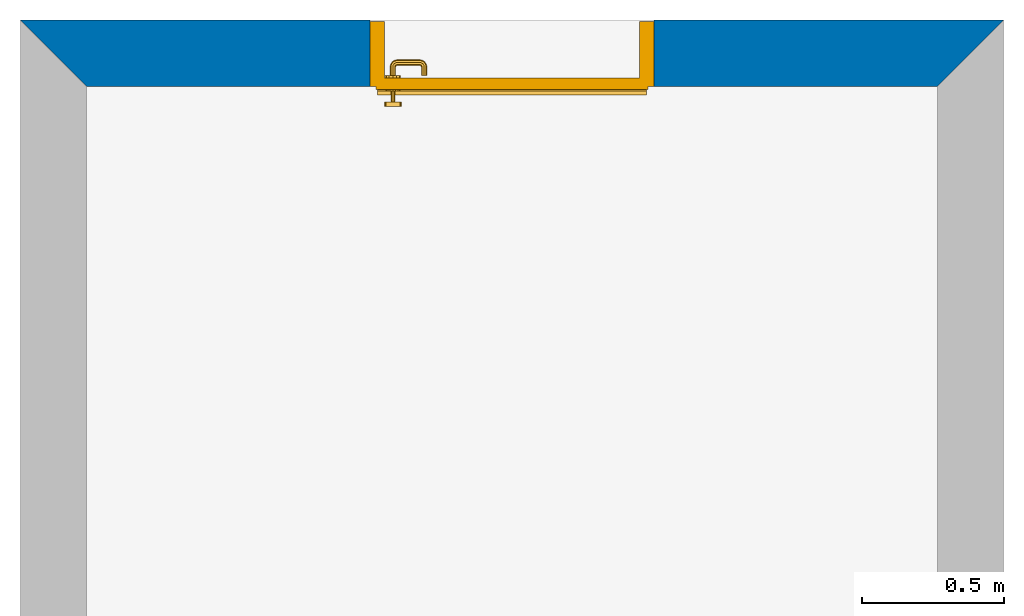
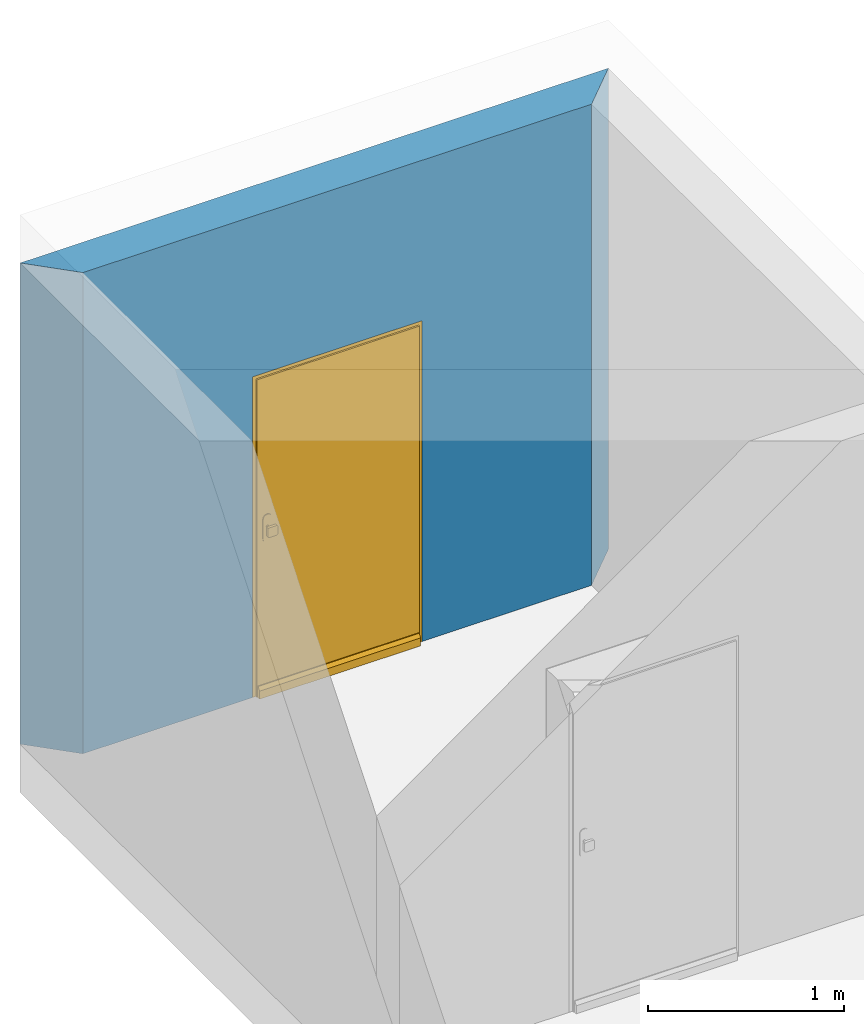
# One storey, part 3 of 4: 1 door, 1 wall, 1 opening.
"""IFC2X3 building model written with IfcOpenShell, lengths in millimetres."""

from ifc_helpers import new_model, entity, si_unit, converted_unit, money_unit, direction, frame, origin_with_axes, origin_2d_with_axis, place, context, subcontext, project, spatial, polyline, rectangle, outline, extrude, open_shell, faceted_brep, surface_model, source, transform, mapped, material, layer, layer_set, layer_usage, type_object, element, fill, save


model = new_model("IFC2X3")

# Units and contexts
model_context = context("Model", 3, precision=1e-05, world=origin_with_axes(), true_north=direction((0.0, 1.0)))
body_context = subcontext(model_context, "Body", "Model", "MODEL_VIEW")
ifc_project = project(units=[si_unit("LENGTHUNIT", "METRE", prefix="MILLI"), si_unit("AREAUNIT", "SQUARE_METRE"), si_unit("VOLUMEUNIT", "CUBIC_METRE"), converted_unit("PLANEANGLEUNIT", "DEGREE", entity("IfcPlaneAngleMeasure", 0.0174532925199), si_unit("PLANEANGLEUNIT", "RADIAN"), dimensions=[0, 0, 0, 0, 0, 0, 0]), si_unit("SOLIDANGLEUNIT", "STERADIAN"), money_unit("CHF"), converted_unit("TIMEUNIT", "Year", entity("IfcTimeMeasure", 31556926.0), si_unit("TIMEUNIT", "SECOND"), dimensions=[0, 0, 0, 0, 0, 0, 0]), si_unit("MASSUNIT", "GRAM"), si_unit("THERMODYNAMICTEMPERATUREUNIT", "DEGREE_CELSIUS"), si_unit("LUMINOUSINTENSITYUNIT", "LUMEN")], contexts=[model_context])

# Site, building, storey
site_placement = place(None, origin_with_axes())
site = spatial("IfcSite", under=ifc_project, at=site_placement, Name="Gel\x8ande", CompositionType="ELEMENT")
building_placement = place(site_placement, origin_with_axes())
building = spatial("IfcBuilding", under=site, at=building_placement, Name="Geb\x8aude", CompositionType="ELEMENT")
storey_placement = place(building_placement, frame((0.0, 0.0, 3100.0), z_axis=(0.0, 0.0, 1.0), x_axis=(1.0, 0.0, 0.0)))
storey = spatial("IfcBuildingStorey", under=building, at=storey_placement, Name="TowZone", CompositionType="ELEMENT", Elevation=3100.0)

# Wall, opening, door
ifc_material_1 = material(Name="Verputz, Innen")
ifc_layer_1 = layer(ifc_material_1, 15.0, ventilated="UNKNOWN")
ifc_material_2 = material(Name="Beton, Stahlbeton")
ifc_layer_2 = layer(ifc_material_2, 200.0, ventilated="UNKNOWN")
ifc_material_3 = material(Name="Verputz, Aussen")
ifc_layer_3 = layer(ifc_material_3, 20.0, ventilated="UNKNOWN")
ifc_layer_set = layer_set([ifc_layer_1, ifc_layer_2, ifc_layer_3], Name="OneZone")
ifc_layer_usage = layer_usage(ifc_layer_set, "AXIS2", "NEGATIVE", 235.0)
wall_type = type_object("IfcWallType", Name="OneZone 235", PredefinedType="NOTDEFINED")
wall_placement = place(storey_placement, frame((5841.86610583, 3470.0, 0.0), z_axis=(0.0, 0.0, 1.0), x_axis=(-1.0, 0.0, 0.0)))
wall = element("IfcWallStandardCase", 1, at=wall_placement, inside=storey, type_object=wall_type, material=ifc_layer_usage, Name="Wand-001", context=body_context, shape_type="SweptSolid", body=[
    extrude(outline(polyline([(-235.0, 0.0), (3235.0, 0.0), (3000.0, 235.0), (0.0, 235.0), (-235.0, 0.0)])), origin_with_axes(), (0.0, 0.0, 1.0), 3000.0),
])
opening_placement = place(wall_placement, frame((1500.0, 0.0, 0.0), z_axis=(0.0, 0.0, 1.0), x_axis=(1.0, 0.0, 0.0)))
opening = element("IfcOpeningElement", 2, at=opening_placement, cuts=wall, Name="T\x9fr-001", context=body_context, shape_type="SweptSolid", body=[
    extrude(rectangle(XDim=1000.0, YDim=2000.0, at=origin_2d_with_axis()), frame((0.0, -235.0, 1000.0), z_axis=(0.0, -1.0, 0.0), x_axis=(-1.0, 0.0, 0.0)), (0.0, 0.0, -1.0), 705.0),
])
door_style = type_object("IfcDoorStyle", Name="Eingangst\x9fr 18", ConstructionType="NOTDEFINED", OperationType="SINGLE_SWING_LEFT", ParameterTakesPrecedence=False, Sizeable=False)
shared_shape = source(origin_with_axes(), body_context, "Body", "SurfaceModel", [
    faceted_brep([(-500.0, -230.0, 0.0), (-500.0, -230.0, 2000.0), (-500.0, -30.0, 2000.0), (-500.0, -30.0, 0.0), (-450.0, -230.0, 0.0), (-450.0, -230.0, 1950.0), (-130.1, -230.0, 1950.0), (-0.1, -230.0, 1950.0), (450.0, -230.0, 1950.0), (450.0, -230.0, 0.0), (500.0, -230.0, 0.0), (500.0, -230.0, 2000.0), (500.0, -30.0, 2000.0), (500.0, -30.0, 0.0), (450.0, -30.0, 0.0), (450.0, -30.0, 1950.0), (-0.1, -30.0, 1950.0), (-130.1, -30.0, 1950.0), (-450.0, -30.0, 1950.0), (-450.0, -30.0, 0.0)], [[[0, 1, 2, 3]], [[0, 4, 5, 6, 7, 8, 9, 10, 11, 1]], [[1, 11, 12, 2]], [[3, 2, 12, 13, 14, 15, 16, 17, 18, 19]], [[4, 0, 3, 19]], [[5, 4, 19, 18]], [[6, 5, 18, 17]], [[7, 6, 17, 16]], [[8, 7, 16, 15]], [[9, 8, 15, 14]], [[10, 9, 14, 13]], [[11, 10, 13, 12]]]),
    faceted_brep([(-500.0, -30.0, 0.0), (-500.0, -30.0, 2000.0), (-500.0, 0.0, 2000.0), (-500.0, 0.0, 0.0), (-480.0, -30.0, 0.0), (-480.0, -30.0, 1980.0), (-100.1, -30.0, 1980.0), (-30.1, -30.0, 1980.0), (480.0, -30.0, 1980.0), (480.0, -30.0, 0.0), (500.0, -30.0, 0.0), (500.0, -30.0, 2000.0), (500.0, 0.0, 2000.0), (500.0, 0.0, 0.0), (480.0, 0.0, 0.0), (480.0, 0.0, 1980.0), (-30.1, 0.0, 1980.0), (-100.1, 0.0, 1980.0), (-480.0, 0.0, 1980.0), (-480.0, 0.0, 0.0)], [[[0, 1, 2, 3]], [[0, 4, 5, 6, 7, 8, 9, 10, 11, 1]], [[1, 11, 12, 2]], [[3, 2, 12, 13, 14, 15, 16, 17, 18, 19]], [[4, 0, 3, 19]], [[5, 4, 19, 18]], [[6, 5, 18, 17]], [[7, 6, 17, 16]], [[8, 7, 16, 15]], [[9, 8, 15, 14]], [[10, 9, 14, 13]], [[11, 10, 13, 12]]]),
    faceted_brep([(-480.0, 10.0, 0.0), (-480.0, 10.0, 1980.0), (480.0, 10.0, 1980.0), (480.0, 10.0, 0.0), (-480.0, -30.0, 0.0), (-480.0, -30.0, 1980.0), (480.0, -30.0, 1980.0), (480.0, -30.0, 0.0)], [[[0, 1, 2, 3]], [[0, 4, 5, 1]], [[1, 5, 6, 2]], [[2, 6, 7, 3]], [[3, 7, 4, 0]], [[7, 6, 5, 4]]]),
    faceted_brep([(-475.0, 30.0, 0.0), (-475.0, 30.0, 50.0), (475.0, 30.0, 50.0), (475.0, 30.0, 0.0), (-475.0, 10.0, 0.0), (-475.0, 10.0, 70.0), (-475.0, 15.0, 70.0), (475.0, 15.0, 70.0), (475.0, 10.0, 70.0), (475.0, 10.0, 0.0)], [[[0, 1, 2, 3]], [[0, 4, 5, 6, 1]], [[1, 6, 7, 2]], [[3, 2, 7, 8, 9]], [[4, 0, 3, 9]], [[5, 4, 9, 8]], [[6, 5, 8, 7]]]),
    faceted_brep([(433.5, -40.0, 1073.3826859), (433.5, -39.9, 1073.3826859), (420.0, -39.9, 1077.0), (420.0, -40.0, 1077.0), (443.382685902, -40.0, 1063.5), (443.382685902, -39.9, 1063.5), (433.5, -30.1, 1073.3826859), (420.0, -30.1, 1077.0), (406.5, -39.9, 1073.3826859), (406.5, -40.0, 1073.3826859), (396.617314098, -40.0, 1063.5), (393.0, -40.0, 1050.0), (396.617314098, -40.0, 1036.5), (406.5, -40.0, 1026.6173141), (420.0, -40.0, 1023.0), (433.5, -40.0, 1026.6173141), (443.382685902, -40.0, 1036.5), (447.0, -40.0, 1050.0), (447.0, -39.9, 1050.0), (443.382685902, -30.1, 1063.5), (433.5, -30.0, 1073.3826859), (420.0, -30.0, 1077.0), (406.5, -30.1, 1073.3826859), (396.617314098, -39.9, 1063.5), (393.0, -39.9, 1050.0), (396.617314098, -39.9, 1036.5), (406.5, -39.9, 1026.6173141), (420.0, -39.9, 1023.0), (433.5, -39.9, 1026.6173141), (443.382685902, -39.9, 1036.5), (447.0, -30.1, 1050.0), (443.382685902, -30.0, 1063.5), (447.0, -30.0, 1050.0), (443.382685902, -30.0, 1036.5), (433.5, -30.0, 1026.6173141), (420.0, -30.0, 1023.0), (406.5, -30.0, 1026.6173141), (396.617314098, -30.0, 1036.5), (393.0, -30.0, 1050.0), (396.617314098, -30.0, 1063.5), (406.5, -30.0, 1073.3826859), (396.617314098, -30.1, 1063.5), (393.0, -30.1, 1050.0), (396.617314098, -30.1, 1036.5), (406.5, -30.1, 1026.6173141), (420.0, -30.1, 1023.0), (433.5, -30.1, 1026.6173141), (443.382685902, -30.1, 1036.5)], [[[0, 1, 2, 3]], [[4, 5, 1, 0]], [[1, 6, 7, 2]], [[3, 2, 8, 9]], [[3, 9, 10, 11, 12, 13, 14, 15, 16, 17, 4, 0]], [[17, 18, 5, 4]], [[5, 19, 6, 1]], [[6, 20, 21, 7]], [[2, 7, 22, 8]], [[9, 8, 23, 10]], [[10, 23, 24, 11]], [[11, 24, 25, 12]], [[12, 25, 26, 13]], [[13, 26, 27, 14]], [[14, 27, 28, 15]], [[15, 28, 29, 16]], [[16, 29, 18, 17]], [[18, 30, 19, 5]], [[19, 31, 20, 6]], [[21, 20, 31, 32, 33, 34, 35, 36, 37, 38, 39, 40]], [[7, 21, 40, 22]], [[8, 22, 41, 23]], [[23, 41, 42, 24]], [[24, 42, 43, 25]], [[25, 43, 44, 26]], [[26, 44, 45, 27]], [[27, 45, 46, 28]], [[28, 46, 47, 29]], [[29, 47, 30, 18]], [[30, 32, 31, 19]], [[47, 33, 32, 30]], [[46, 34, 33, 47]], [[45, 35, 34, 46]], [[44, 36, 35, 45]], [[43, 37, 36, 44]], [[42, 38, 37, 43]], [[41, 39, 38, 42]], [[22, 40, 39, 41]]]),
    faceted_brep([(412.532169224, -40.0, 959.692280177), (413.279754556, -40.0, 961.639806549), (406.55, -40.0, 973.296083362), (396.703916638, -40.0, 963.45), (415.0, -40.0, 952.886751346), (415.0, -40.0, 954.4), (412.532169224, -39.0, 959.692280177), (413.279754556, -39.0, 961.639806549), (414.624817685, -39.0, 965.143815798), (414.624817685, -40.0, 965.143815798), (420.0, -40.0, 967.425445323), (420.0, -40.0, 976.9), (396.617314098, -40.0, 963.5), (406.5, -40.0, 973.382685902), (393.1, -40.0, 950.0), (415.0, -40.0, 950.0), (415.0, -40.0, 947.113248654), (415.0, -40.0, 941.339745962), (415.0, -40.0, 937.5), (415.0, -39.0, 937.5), (415.0, -39.0, 941.339745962), (415.0, -39.0, 947.113248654), (415.0, -39.0, 950.0), (415.0, -39.0, 952.886751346), (415.0, -39.0, 954.4), (397.569942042, -39.0, 962.95), (407.05, -39.0, 972.430057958), (420.0, -39.0, 975.9), (420.0, -39.0, 967.425445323), (425.375182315, -40.0, 965.143815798), (426.720245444, -40.0, 961.639806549), (433.45, -40.0, 973.296083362), (420.0, -40.0, 977.0), (393.0, -40.0, 950.0), (396.617314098, -39.9, 963.5), (406.5, -39.9, 973.382685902), (396.703916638, -40.0, 936.55), (406.55, -40.0, 926.703916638), (420.0, -40.0, 923.1), (420.0, -40.0, 932.5), (416.464466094, -40.0, 933.964466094), (416.464466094, -39.0, 933.964466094), (420.0, -39.0, 932.5), (420.0, -39.0, 924.1), (407.05, -39.0, 927.569942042), (397.569942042, -39.0, 937.05), (394.1, -39.0, 950.0), (397.483339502, -39.0, 963.0), (407.0, -39.0, 972.516660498), (420.0, -39.0, 976.0), (425.375182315, -39.0, 965.143815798), (432.95, -39.0, 972.430057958), (426.720245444, -39.0, 961.639806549), (427.467830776, -39.0, 959.692280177), (427.467830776, -40.0, 959.692280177), (425.0, -40.0, 954.4), (425.0, -40.0, 952.886751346), (443.296083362, -40.0, 963.45), (433.5, -40.0, 973.382685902), (420.0, -39.9, 977.0), (396.617314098, -40.0, 936.5), (393.0, -39.9, 950.0), (396.617314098, -30.1, 963.5), (406.5, -30.1, 973.382685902), (406.5, -40.0, 926.617314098), (420.0, -40.0, 923.0), (423.535533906, -40.0, 933.964466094), (433.45, -40.0, 926.703916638), (425.0, -40.0, 941.339745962), (425.0, -40.0, 937.5), (425.0, -39.0, 937.5), (425.0, -39.0, 941.339745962), (432.95, -39.0, 927.569942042), (423.535533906, -39.0, 933.964466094), (420.0, -39.0, 924.0), (407.0, -39.0, 927.483339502), (397.483339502, -39.0, 937.0), (394.0, -39.0, 950.0), (397.483339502, -38.9, 963.0), (407.0, -38.9, 972.516660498), (420.0, -38.9, 976.0), (433.0, -39.0, 972.516660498), (442.430057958, -39.0, 962.95), (425.0, -39.0, 952.886751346), (425.0, -39.0, 954.4), (425.0, -39.0, 950.0), (425.0, -39.0, 947.113248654), (425.0, -40.0, 947.113248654), (425.0, -40.0, 950.0), (446.9, -40.0, 950.0), (443.382685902, -40.0, 963.5), (433.5, -39.9, 973.382685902), (420.0, -30.1, 977.0), (396.617314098, -39.9, 936.5), (393.0, -30.1, 950.0), (396.617314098, -30.0, 963.5), (406.5, -30.0, 973.382685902), (406.5, -39.9, 926.617314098), (433.5, -40.0, 926.617314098), (420.0, -39.9, 923.0), (443.296083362, -40.0, 936.55), (442.430057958, -39.0, 937.05), (433.0, -39.0, 927.483339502), (420.0, -38.9, 924.0), (407.0, -38.9, 927.483339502), (397.483339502, -38.9, 937.0), (394.0, -38.9, 950.0), (397.483339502, -30.1, 963.0), (407.0, -30.1, 972.516660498), (420.0, -30.1, 976.0), (433.0, -38.9, 972.516660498), (442.516660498, -39.0, 963.0), (445.9, -39.0, 950.0), (447.0, -40.0, 950.0), (443.382685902, -39.9, 963.5), (433.5, -30.1, 973.382685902), (420.0, -30.0, 977.0), (396.617314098, -30.1, 936.5), (393.0, -30.0, 950.0), (396.703916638, -30.0, 963.45), (406.55, -30.0, 973.296083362), (406.5, -30.1, 926.617314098), (443.382685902, -40.0, 936.5), (433.5, -39.9, 926.617314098), (420.0, -30.1, 923.0), (442.516660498, -39.0, 937.0), (433.0, -38.9, 927.483339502), (420.0, -30.1, 924.0), (407.0, -30.1, 927.483339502), (397.483339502, -30.1, 937.0), (394.0, -30.1, 950.0), (397.483339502, -30.0, 963.0), (407.0, -30.0, 972.516660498), (420.0, -30.0, 976.0), (433.0, -30.1, 972.516660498), (442.516660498, -38.9, 963.0), (446.0, -39.0, 950.0), (447.0, -39.9, 950.0), (443.382685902, -30.1, 963.5), (433.5, -30.0, 973.382685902), (420.0, -30.0, 976.9), (396.617314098, -30.0, 936.5), (393.1, -30.0, 950.0), (397.396736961, -30.0, 963.05), (406.95, -30.0, 972.603263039), (406.5, -30.0, 926.617314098), (443.382685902, -39.9, 936.5), (433.5, -30.1, 926.617314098), (420.0, -30.0, 923.0), (442.516660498, -38.9, 937.0), (433.0, -30.1, 927.483339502), (420.0, -30.0, 924.0), (407.0, -30.0, 927.483339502), (397.483339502, -30.0, 937.0), (394.0, -30.0, 950.0), (420.0, -30.0, 976.1), (433.0, -30.0, 972.516660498), (442.516660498, -30.1, 963.0), (446.0, -38.9, 950.0), (447.0, -30.1, 950.0), (443.382685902, -30.0, 963.5), (433.45, -30.0, 973.296083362), (396.703916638, -30.0, 936.55), (393.9, -30.0, 950.0), (406.55, -30.0, 926.703916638), (443.382685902, -30.1, 936.5), (433.5, -30.0, 926.617314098), (420.0, -30.0, 923.1), (442.516660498, -30.1, 937.0), (433.0, -30.0, 927.483339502), (420.0, -30.0, 923.9), (406.95, -30.0, 927.396736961), (397.396736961, -30.0, 936.95), (433.05, -30.0, 972.603263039), (442.516660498, -30.0, 963.0), (446.0, -30.1, 950.0), (447.0, -30.0, 950.0), (443.296083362, -30.0, 963.45), (443.382685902, -30.0, 936.5), (433.45, -30.0, 926.703916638), (442.516660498, -30.0, 937.0), (433.05, -30.0, 927.396736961), (442.603263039, -30.0, 963.05), (446.0, -30.0, 950.0), (446.9, -30.0, 950.0), (443.296083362, -30.0, 936.55), (442.603263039, -30.0, 936.95), (446.1, -30.0, 950.0)], [[[0, 1, 2, 3, 4, 5]], [[0, 6, 7, 8, 9, 1]], [[9, 10, 11, 2, 1]], [[12, 3, 2, 13]], [[3, 14, 15, 4]], [[5, 4, 15, 16, 17, 18, 19, 20, 21, 22, 23, 24]], [[5, 24, 6, 0]], [[6, 24, 23, 25, 26, 7]], [[8, 7, 26, 27, 28]], [[9, 8, 28, 10]], [[29, 30, 31, 11, 10]], [[13, 2, 11, 32]], [[33, 14, 3, 12]], [[34, 12, 13, 35]], [[14, 36, 16, 15]], [[36, 37, 17, 16]], [[18, 17, 37, 38, 39, 40]], [[41, 19, 18, 40]], [[41, 42, 43, 44, 20, 19]], [[44, 45, 21, 20]], [[45, 46, 22, 21]], [[46, 25, 23, 22]], [[25, 47, 48, 26]], [[26, 48, 49, 27]], [[50, 28, 27, 51, 52]], [[10, 28, 50, 29]], [[29, 50, 52, 53, 54, 30]], [[54, 55, 56, 57, 31, 30]], [[32, 11, 31, 58]], [[35, 13, 32, 59]], [[60, 36, 14, 33]], [[61, 33, 12, 34]], [[62, 34, 35, 63]], [[64, 37, 36, 60]], [[65, 38, 37, 64]], [[66, 39, 38, 67, 68, 69]], [[42, 41, 40, 39]], [[70, 71, 72, 43, 42, 73]], [[43, 74, 75, 44]], [[44, 75, 76, 45]], [[45, 76, 77, 46]], [[46, 77, 47, 25]], [[47, 78, 79, 48]], [[48, 79, 80, 49]], [[27, 49, 81, 51]], [[53, 52, 51, 82, 83, 84]], [[54, 53, 84, 55]], [[84, 83, 85, 86, 71, 70, 69, 68, 87, 88, 56, 55]], [[89, 57, 56, 88]], [[58, 31, 57, 90]], [[59, 32, 58, 91]], [[63, 35, 59, 92]], [[93, 60, 33, 61]], [[94, 61, 34, 62]], [[95, 62, 63, 96]], [[97, 64, 60, 93]], [[98, 67, 38, 65]], [[99, 65, 64, 97]], [[73, 42, 39, 66]], [[67, 100, 87, 68]], [[70, 73, 66, 69]], [[101, 72, 71, 86]], [[72, 102, 74, 43]], [[74, 103, 104, 75]], [[75, 104, 105, 76]], [[76, 105, 106, 77]], [[77, 106, 78, 47]], [[78, 107, 108, 79]], [[79, 108, 109, 80]], [[49, 80, 110, 81]], [[51, 81, 111, 82]], [[82, 112, 85, 83]], [[112, 101, 86, 85]], [[100, 89, 88, 87]], [[90, 57, 89, 113]], [[91, 58, 90, 114]], [[92, 59, 91, 115]], [[96, 63, 92, 116]], [[117, 93, 61, 94]], [[118, 94, 62, 95]], [[119, 95, 96, 120]], [[121, 97, 93, 117]], [[122, 100, 67, 98]], [[123, 98, 65, 99]], [[124, 99, 97, 121]], [[101, 125, 102, 72]], [[102, 126, 103, 74]], [[103, 127, 128, 104]], [[104, 128, 129, 105]], [[105, 129, 130, 106]], [[106, 130, 107, 78]], [[107, 131, 132, 108]], [[108, 132, 133, 109]], [[80, 109, 134, 110]], [[81, 110, 135, 111]], [[82, 111, 136, 112]], [[112, 136, 125, 101]], [[113, 89, 100, 122]], [[114, 90, 113, 137]], [[115, 91, 114, 138]], [[116, 92, 115, 139]], [[120, 96, 116, 140]], [[141, 117, 94, 118]], [[142, 118, 95, 119]], [[143, 119, 120, 144]], [[145, 121, 117, 141]], [[146, 122, 98, 123]], [[147, 123, 99, 124]], [[148, 124, 121, 145]], [[125, 149, 126, 102]], [[126, 150, 127, 103]], [[127, 151, 152, 128]], [[128, 152, 153, 129]], [[129, 153, 154, 130]], [[130, 154, 131, 107]], [[131, 143, 144, 132]], [[132, 144, 155, 133]], [[109, 133, 156, 134]], [[110, 134, 157, 135]], [[111, 135, 158, 136]], [[136, 158, 149, 125]], [[137, 113, 122, 146]], [[138, 114, 137, 159]], [[139, 115, 138, 160]], [[140, 116, 139, 161]], [[144, 120, 140, 155]], [[162, 141, 118, 142]], [[163, 142, 119, 143]], [[164, 145, 141, 162]], [[165, 146, 123, 147]], [[166, 147, 124, 148]], [[167, 148, 145, 164]], [[149, 168, 150, 126]], [[150, 169, 151, 127]], [[151, 170, 171, 152]], [[152, 171, 172, 153]], [[153, 172, 163, 154]], [[154, 163, 143, 131]], [[133, 155, 173, 156]], [[134, 156, 174, 157]], [[135, 157, 175, 158]], [[158, 175, 168, 149]], [[159, 137, 146, 165]], [[160, 138, 159, 176]], [[161, 139, 160, 177]], [[155, 140, 161, 173]], [[172, 162, 142, 163]], [[171, 164, 162, 172]], [[178, 165, 147, 166]], [[179, 166, 148, 167]], [[170, 167, 164, 171]], [[168, 180, 169, 150]], [[169, 181, 170, 151]], [[156, 173, 182, 174]], [[157, 174, 183, 175]], [[175, 183, 180, 168]], [[176, 159, 165, 178]], [[177, 160, 176, 184]], [[173, 161, 177, 182]], [[185, 178, 166, 179]], [[181, 179, 167, 170]], [[180, 186, 181, 169]], [[174, 182, 187, 183]], [[183, 187, 186, 180]], [[184, 176, 178, 185]], [[182, 177, 184, 187]], [[186, 185, 179, 181]], [[187, 184, 185, 186]]]),
    surface_model("IfcShellBasedSurfaceModel", [(430.0, -40.0, 1050.0), (430.0, -70.9849140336, 1050.0), (427.071067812, -70.696439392, 1042.92893219), (427.071067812, -40.0, 1042.92893219), (427.071067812, -40.0, 1057.07106781), (427.071067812, -70.696439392, 1057.07106781), (428.277987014, -79.6420579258, 1050.0), (425.518993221, -78.4992452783, 1042.92893219), (420.0, -70.0, 1040.0), (420.0, -40.0, 1040.0), (420.0, -40.0, 1060.0), (420.0, -70.0, 1060.0), (425.518993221, -78.4992452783, 1057.07106781), (422.816199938, -87.8161999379, 1050.0), (420.704557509, -85.7045575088, 1042.92893219), (418.858192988, -75.7402514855, 1040.0), (412.928932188, -69.303560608, 1042.92893219), (412.928932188, -40.0, 1042.92893219), (412.928932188, -40.0, 1057.07106781), (412.928932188, -69.303560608, 1057.07106781), (418.858192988, -75.7402514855, 1060.0), (420.704557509, -85.7045575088, 1057.07106781), (414.642057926, -93.2779870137, 1050.0), (413.499245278, -90.5189932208, 1042.92893219), (415.606601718, -80.6066017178, 1040.0), (412.197392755, -72.9812576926, 1042.92893219), (410.0, -69.0150859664, 1050.0), (410.0, -40.0, 1050.0), (412.197392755, -72.9812576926, 1057.07106781), (415.606601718, -80.6066017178, 1060.0), (413.499245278, -90.5189932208, 1057.07106781), (405.984914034, -95.0, 1050.0), (405.696439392, -92.0710678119, 1042.92893219), (410.740251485, -83.8581929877, 1040.0), (410.508645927, -75.5086459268, 1042.92893219), (409.438398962, -71.8384450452, 1050.0), (410.508645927, -75.5086459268, 1057.07106781), (410.740251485, -83.8581929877, 1060.0), (405.696439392, -92.0710678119, 1057.07106781), (324.015085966, -95.0, 1050.0), (324.303560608, -92.0710678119, 1042.92893219), (405.0, -85.0, 1040.0), (407.981257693, -77.1973927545, 1042.92893219), (408.397003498, -73.3970034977, 1050.0), (407.981257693, -77.1973927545, 1057.07106781), (405.0, -85.0, 1060.0), (324.303560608, -92.0710678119, 1057.07106781), (315.357942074, -93.2779870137, 1050.0), (316.500754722, -90.5189932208, 1042.92893219), (325.0, -85.0, 1040.0), (404.303560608, -77.9289321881, 1042.92893219), (406.838445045, -74.4383989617, 1050.0), (404.303560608, -77.9289321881, 1057.07106781), (325.0, -85.0, 1060.0), (316.500754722, -90.5189932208, 1057.07106781), (307.183800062, -87.8161999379, 1050.0), (309.295442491, -85.7045575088, 1042.92893219), (319.259748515, -83.8581929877, 1040.0), (325.696439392, -77.9289321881, 1042.92893219), (404.015085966, -75.0, 1050.0), (325.696439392, -77.9289321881, 1057.07106781), (319.259748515, -83.8581929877, 1060.0), (309.295442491, -85.7045575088, 1057.07106781), (301.722012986, -79.6420579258, 1050.0), (304.481006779, -78.4992452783, 1042.92893219), (314.393398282, -80.6066017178, 1040.0), (322.018742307, -77.1973927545, 1042.92893219), (325.984914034, -75.0, 1050.0), (322.018742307, -77.1973927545, 1057.07106781), (314.393398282, -80.6066017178, 1060.0), (304.481006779, -78.4992452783, 1057.07106781), (300.0, -70.9849140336, 1050.0), (302.928932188, -70.696439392, 1042.92893219), (311.141807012, -75.7402514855, 1040.0), (319.491354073, -75.5086459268, 1042.92893219), (323.161554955, -74.4383989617, 1050.0), (319.491354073, -75.5086459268, 1057.07106781), (311.141807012, -75.7402514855, 1060.0), (302.928932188, -70.696439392, 1057.07106781), (300.0, -40.0, 1050.0), (302.928932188, -40.0, 1042.92893219), (310.0, -70.0, 1040.0), (317.802607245, -72.9812576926, 1042.92893219), (321.602996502, -73.3970034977, 1050.0), (317.802607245, -72.9812576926, 1057.07106781), (310.0, -70.0, 1060.0), (302.928932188, -40.0, 1057.07106781), (310.0, -40.0, 1060.0), (317.071067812, -40.0, 1057.07106781), (320.0, -40.0, 1050.0), (317.071067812, -40.0, 1042.92893219), (310.0, -40.0, 1040.0), (317.071067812, -69.303560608, 1042.92893219), (320.561601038, -71.8384450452, 1050.0), (317.071067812, -69.303560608, 1057.07106781), (320.0, -69.0150859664, 1050.0)], [open_shell([[[0, 1, 2, 3]], [[4, 5, 1, 0]], [[1, 6, 7, 2]], [[3, 2, 8, 9]], [[10, 11, 5, 4]], [[5, 12, 6, 1]], [[6, 13, 14, 7]], [[2, 7, 15, 8]], [[9, 8, 16, 17]], [[18, 19, 11, 10]], [[11, 20, 12, 5]], [[12, 21, 13, 6]], [[13, 22, 23, 14]], [[7, 14, 24, 15]], [[8, 15, 25, 16]], [[17, 16, 26, 27]], [[27, 26, 19, 18]], [[19, 28, 20, 11]], [[20, 29, 21, 12]], [[21, 30, 22, 13]], [[22, 31, 32, 23]], [[14, 23, 33, 24]], [[15, 24, 34, 25]], [[16, 25, 35, 26]], [[26, 35, 28, 19]], [[28, 36, 29, 20]], [[29, 37, 30, 21]], [[30, 38, 31, 22]], [[31, 39, 40, 32]], [[23, 32, 41, 33]], [[24, 33, 42, 34]], [[25, 34, 43, 35]], [[35, 43, 36, 28]], [[36, 44, 37, 29]], [[37, 45, 38, 30]], [[38, 46, 39, 31]], [[39, 47, 48, 40]], [[32, 40, 49, 41]], [[33, 41, 50, 42]], [[34, 42, 51, 43]], [[43, 51, 44, 36]], [[44, 52, 45, 37]], [[45, 53, 46, 38]], [[46, 54, 47, 39]], [[47, 55, 56, 48]], [[40, 48, 57, 49]], [[41, 49, 58, 50]], [[42, 50, 59, 51]], [[51, 59, 52, 44]], [[52, 60, 53, 45]], [[53, 61, 54, 46]], [[54, 62, 55, 47]], [[55, 63, 64, 56]], [[48, 56, 65, 57]], [[49, 57, 66, 58]], [[50, 58, 67, 59]], [[59, 67, 60, 52]], [[60, 68, 61, 53]], [[61, 69, 62, 54]], [[62, 70, 63, 55]], [[63, 71, 72, 64]], [[56, 64, 73, 65]], [[57, 65, 74, 66]], [[58, 66, 75, 67]], [[67, 75, 68, 60]], [[68, 76, 69, 61]], [[69, 77, 70, 62]], [[70, 78, 71, 63]], [[71, 79, 80, 72]], [[64, 72, 81, 73]], [[65, 73, 82, 74]], [[66, 74, 83, 75]], [[75, 83, 76, 68]], [[76, 84, 77, 69]], [[77, 85, 78, 70]], [[78, 86, 79, 71]], [[79, 86, 87, 88, 89, 90, 91, 80]], [[72, 80, 91, 81]], [[73, 81, 92, 82]], [[74, 82, 93, 83]], [[83, 93, 84, 76]], [[84, 94, 85, 77]], [[85, 87, 86, 78]], [[94, 88, 87, 85]], [[95, 89, 88, 94]], [[92, 90, 89, 95]], [[81, 91, 90, 92]], [[82, 92, 95, 93]], [[93, 95, 94, 84]]])]),
    faceted_brep([(414.696699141, 15.0, 1044.69669914), (420.0, 15.0, 1042.5), (425.303300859, 15.0, 1044.69669914), (427.5, 15.0, 1050.0), (425.303300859, 15.0, 1055.30330086), (420.0, 15.0, 1057.5), (414.696699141, 15.0, 1055.30330086), (412.5, 15.0, 1050.0), (414.696699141, 55.0, 1044.69669914), (420.0, 55.0, 1042.5), (425.303300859, 55.0, 1044.69669914), (427.5, 55.0, 1050.0), (425.303300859, 55.0, 1055.30330086), (420.0, 55.0, 1057.5), (414.696699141, 55.0, 1055.30330086), (412.5, 55.0, 1050.0)], [[[0, 1, 2, 3, 4, 5, 6, 7]], [[1, 0, 8, 9]], [[2, 1, 9, 10]], [[3, 2, 10, 11]], [[4, 3, 11, 12]], [[5, 4, 12, 13]], [[6, 5, 13, 14]], [[7, 6, 14, 15]], [[0, 7, 15, 8]], [[8, 15, 14, 13, 12, 11, 10, 9]]]),
    faceted_brep([(445.0, 10.0, 975.0), (443.096988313, 10.0, 965.432914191), (443.096988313, 15.0, 965.432914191), (445.0, 15.0, 975.0), (445.0, 10.0, 1100.0), (443.096988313, 10.0, 1109.56708581), (437.67766953, 10.0, 1117.67766953), (429.567085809, 10.0, 1123.09698831), (420.0, 10.0, 1125.0), (410.432914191, 10.0, 1123.09698831), (402.32233047, 10.0, 1117.67766953), (396.903011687, 10.0, 1109.56708581), (395.0, 10.0, 1100.0), (395.0, 10.0, 975.0), (396.903011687, 10.0, 965.432914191), (402.32233047, 10.0, 957.32233047), (410.432914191, 10.0, 951.903011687), (420.0, 10.0, 950.0), (429.567085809, 10.0, 951.903011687), (437.67766953, 10.0, 957.32233047), (437.67766953, 15.0, 957.32233047), (429.567085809, 15.0, 951.903011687), (420.0, 15.0, 950.0), (410.432914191, 15.0, 951.903011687), (402.32233047, 15.0, 957.32233047), (396.903011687, 15.0, 965.432914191), (395.0, 15.0, 975.0), (395.0, 15.0, 1100.0), (396.903011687, 15.0, 1109.56708581), (402.32233047, 15.0, 1117.67766953), (410.432914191, 15.0, 1123.09698831), (420.0, 15.0, 1125.0), (429.567085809, 15.0, 1123.09698831), (437.67766953, 15.0, 1117.67766953), (443.096988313, 15.0, 1109.56708581), (445.0, 15.0, 1100.0)], [[[0, 1, 2, 3]], [[0, 4, 5, 6, 7, 8, 9, 10, 11, 12, 13, 14, 15, 16, 17, 18, 19, 1]], [[1, 19, 20, 2]], [[3, 2, 20, 21, 22, 23, 24, 25, 26, 27, 28, 29, 30, 31, 32, 33, 34, 35]], [[4, 0, 3, 35]], [[5, 4, 35, 34]], [[6, 5, 34, 33]], [[7, 6, 33, 32]], [[8, 7, 32, 31]], [[9, 8, 31, 30]], [[10, 9, 30, 29]], [[11, 10, 29, 28]], [[12, 11, 28, 27]], [[13, 12, 27, 26]], [[14, 13, 26, 25]], [[15, 14, 25, 24]], [[16, 15, 24, 23]], [[17, 16, 23, 22]], [[18, 17, 22, 21]], [[19, 18, 21, 20]]]),
    faceted_brep([(440.0, 55.0, 1080.0), (445.0, 55.0, 1078.66025404), (445.0, 70.0, 1078.66025404), (440.0, 70.0, 1080.0), (400.0, 55.0, 1080.0), (395.0, 55.0, 1078.66025404), (391.339745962, 55.0, 1075.0), (390.0, 55.0, 1070.0), (390.0, 55.0, 1030.0), (391.339745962, 55.0, 1025.0), (395.0, 55.0, 1021.33974596), (400.0, 55.0, 1020.0), (440.0, 55.0, 1020.0), (445.0, 55.0, 1021.33974596), (448.660254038, 55.0, 1025.0), (450.0, 55.0, 1030.0), (450.0, 55.0, 1070.0), (448.660254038, 55.0, 1075.0), (448.660254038, 70.0, 1075.0), (450.0, 70.0, 1070.0), (450.0, 70.0, 1030.0), (448.660254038, 70.0, 1025.0), (445.0, 70.0, 1021.33974596), (440.0, 70.0, 1020.0), (400.0, 70.0, 1020.0), (395.0, 70.0, 1021.33974596), (391.339745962, 70.0, 1025.0), (390.0, 70.0, 1030.0), (390.0, 70.0, 1070.0), (391.339745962, 70.0, 1075.0), (395.0, 70.0, 1078.66025404), (400.0, 70.0, 1080.0)], [[[0, 1, 2, 3]], [[0, 4, 5, 6, 7, 8, 9, 10, 11, 12, 13, 14, 15, 16, 17, 1]], [[1, 17, 18, 2]], [[3, 2, 18, 19, 20, 21, 22, 23, 24, 25, 26, 27, 28, 29, 30, 31]], [[4, 0, 3, 31]], [[5, 4, 31, 30]], [[6, 5, 30, 29]], [[7, 6, 29, 28]], [[8, 7, 28, 27]], [[9, 8, 27, 26]], [[10, 9, 26, 25]], [[11, 10, 25, 24]], [[12, 11, 24, 23]], [[13, 12, 23, 22]], [[14, 13, 22, 21]], [[15, 14, 21, 20]], [[16, 15, 20, 19]], [[17, 16, 19, 18]]]),
])
door_placement = place(opening_placement, frame((-500.0, 0.0, 0.0), z_axis=(0.0, 0.0, 1.0), x_axis=(1.0, 0.0, 0.0)))
door = element("IfcDoor", 3, at=door_placement, inside=storey, type_object=door_style, Name="T\x9fr-001", OverallHeight=2000.0, OverallWidth=1000.0, context=body_context, shape_type="MappedRepresentation", body=[
    mapped(shared_shape, transform((500.0, 235.0, 0.0))),
])
fill(opening, door)

save(model, "model.ifc")
